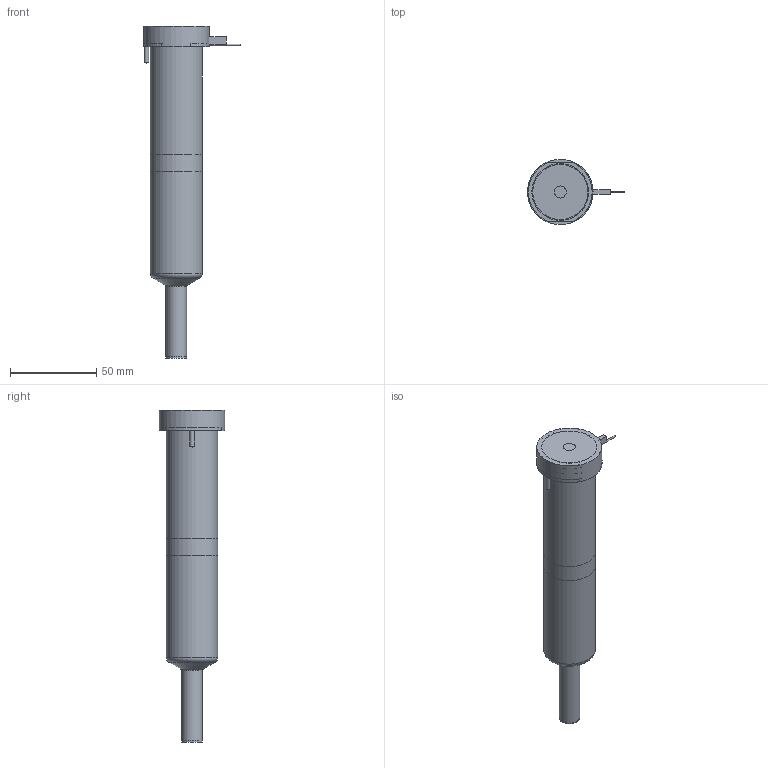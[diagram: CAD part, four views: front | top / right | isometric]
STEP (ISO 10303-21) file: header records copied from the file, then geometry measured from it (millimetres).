
FILE_DESCRIPTION(/* description */ (''),/* implementation_level */ '2;1');
FILE_NAME(/* name */ 'BXTSL-BXISL-BXOSL16145_250C_b',/* time_stamp */ '2008-04-29T14:05:58+12:00',/* author */ (''),/* organization */ (''),/* preprocessor_version */ 'ST-DEVELOPER v9',/* originating_system */ 'UGS - NX 4.0',/* authorisation */ '');
FILE_SCHEMA (('CONFIG_CONTROL_DESIGN'));
Length unit declared in the file: millimetre
Products named in the file (1): BXTSL-BXISL-BXOSL16145_250C_b
Bounding box: 56.25 x 38 x 192.79 mm (x, y, z)
Volume: 207262.5 mm3; surface area: 37715.6 mm2
Topology: 6 solids, 6 shells, 74 faces, 147 edges, 95 vertices
Faces by surface type: plane 35, cylinder 23, cone 8, torus 7, bspline 1
Full cylindrical faces by diameter (mm): 1 x4, 2.5 x2, 7 x1, 11.61 x1, 12.01 x2, 14.8 x1, 25.4 x1, 30 x2, 38 x1
Entity records: 1852 total; most frequent: CARTESIAN_POINT 368, DIRECTION 310, ORIENTED_EDGE 220, AXIS2_PLACEMENT_3D 136, EDGE_LOOP 112, EDGE_CURVE 110, VERTEX_POINT 87, ADVANCED_FACE 74
